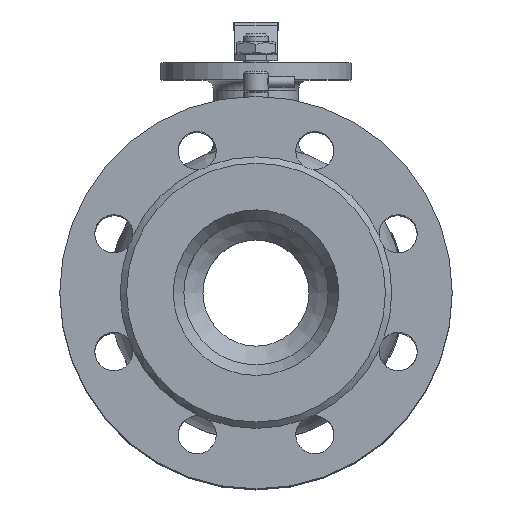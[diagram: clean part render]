
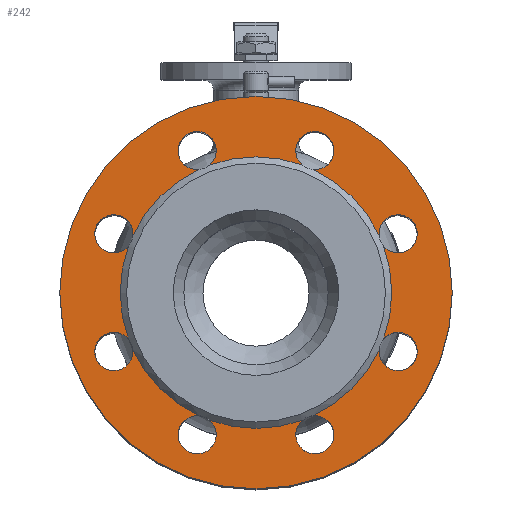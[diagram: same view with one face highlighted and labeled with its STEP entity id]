
A CAD part, top view. The second image highlights one B-rep face of the part: STEP entity #242.
In plain terms, the highlighted planar face has unit normal (0, 0, 1).
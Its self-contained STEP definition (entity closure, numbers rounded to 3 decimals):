
#242=ADVANCED_FACE('',(#2272,#2274),#2276,.F.);
#2272=FACE_BOUND('',#2273,.T.);
#2273=EDGE_LOOP('',(#27874));
#2274=FACE_BOUND('',#2275,.T.);
#2275=EDGE_LOOP('',(#27875,#27876,#27877,#27878,#27879,#27880,#27881,#27882,#27883,
#27884,#27885,#27886,#27887,#27888,#27889,#27890));
#2276=PLANE('',#2277);
#2277=AXIS2_PLACEMENT_3D('',#2278,#2279,#2280);
#2278=CARTESIAN_POINT('',(0.,64.,152.));
#2279=DIRECTION('',(0.,0.,-1.));
#2280=DIRECTION('',(-1.,0.,0.));
#27874=ORIENTED_EDGE('',*,*,#32870,.T.);
#27875=ORIENTED_EDGE('',*,*,#32871,.F.);
#27876=ORIENTED_EDGE('',*,*,#32801,.F.);
#27877=ORIENTED_EDGE('',*,*,#32872,.F.);
#27878=ORIENTED_EDGE('',*,*,#32799,.F.);
#27879=ORIENTED_EDGE('',*,*,#32873,.F.);
#27880=ORIENTED_EDGE('',*,*,#32797,.F.);
#27881=ORIENTED_EDGE('',*,*,#32874,.F.);
#27882=ORIENTED_EDGE('',*,*,#32795,.F.);
#27883=ORIENTED_EDGE('',*,*,#32875,.F.);
#27884=ORIENTED_EDGE('',*,*,#32793,.F.);
#27885=ORIENTED_EDGE('',*,*,#32876,.F.);
#27886=ORIENTED_EDGE('',*,*,#32791,.F.);
#27887=ORIENTED_EDGE('',*,*,#32877,.F.);
#27888=ORIENTED_EDGE('',*,*,#32789,.F.);
#27889=ORIENTED_EDGE('',*,*,#32878,.F.);
#27890=ORIENTED_EDGE('',*,*,#32787,.F.);
#32787=EDGE_CURVE('',#35074,#35077,#35078,.T.);
#32789=EDGE_CURVE('',#35079,#35081,#35082,.T.);
#32791=EDGE_CURVE('',#35083,#35085,#35086,.T.);
#32793=EDGE_CURVE('',#35087,#35089,#35090,.T.);
#32795=EDGE_CURVE('',#35091,#35093,#35094,.T.);
#32797=EDGE_CURVE('',#35095,#35098,#35099,.T.);
#32799=EDGE_CURVE('',#35100,#35102,#35103,.T.);
#32801=EDGE_CURVE('',#35104,#35075,#35107,.T.);
#32870=EDGE_CURVE('',#35238,#35238,#35239,.T.);
#32871=EDGE_CURVE('',#35075,#35074,#35240,.T.);
#32872=EDGE_CURVE('',#35102,#35104,#35241,.T.);
#32873=EDGE_CURVE('',#35098,#35100,#35242,.T.);
#32874=EDGE_CURVE('',#35093,#35095,#35243,.T.);
#32875=EDGE_CURVE('',#35089,#35091,#35244,.T.);
#32876=EDGE_CURVE('',#35085,#35087,#35245,.T.);
#32877=EDGE_CURVE('',#35081,#35083,#35246,.T.);
#32878=EDGE_CURVE('',#35077,#35079,#35247,.T.);
#35074=VERTEX_POINT('',#51800);
#35075=VERTEX_POINT('',#51801);
#35077=VERTEX_POINT('',#51860);
#35078=CIRCLE('',#51861,64.);
#35079=VERTEX_POINT('',#51865);
#35081=VERTEX_POINT('',#51925);
#35082=CIRCLE('',#51926,64.);
#35083=VERTEX_POINT('',#51930);
#35085=VERTEX_POINT('',#51989);
#35086=CIRCLE('',#51990,64.);
#35087=VERTEX_POINT('',#51994);
#35089=VERTEX_POINT('',#52054);
#35090=CIRCLE('',#52055,64.);
#35091=VERTEX_POINT('',#52059);
#35093=VERTEX_POINT('',#52118);
#35094=CIRCLE('',#52119,64.);
#35095=VERTEX_POINT('',#52123);
#35098=VERTEX_POINT('',#52184);
#35099=CIRCLE('',#52185,64.);
#35100=VERTEX_POINT('',#52189);
#35102=VERTEX_POINT('',#52248);
#35103=CIRCLE('',#52249,64.);
#35104=VERTEX_POINT('',#52253);
#35107=CIRCLE('',#52314,64.);
#35238=VERTEX_POINT('',#53088);
#35239=CIRCLE('',#53089,92.5);
#35240=CIRCLE('',#53093,9.);
#35241=CIRCLE('',#53097,9.);
#35242=CIRCLE('',#53101,9.);
#35243=CIRCLE('',#53105,9.);
#35244=CIRCLE('',#53109,9.);
#35245=CIRCLE('',#53113,9.);
#35246=CIRCLE('',#53117,9.);
#35247=CIRCLE('',#53121,9.);
#51800=CARTESIAN_POINT('',(58.009,27.036,152.));
#51801=CARTESIAN_POINT('',(60.136,21.902,152.));
#51860=CARTESIAN_POINT('',(27.036,58.009,152.));
#51861=AXIS2_PLACEMENT_3D('',#51862,#51863,#51864);
#51862=CARTESIAN_POINT('',(0.,0.,152.));
#51863=DIRECTION('',(0.,0.,1.));
#51864=DIRECTION('',(0.906,0.422,0.));
#51865=CARTESIAN_POINT('',(21.902,60.136,152.));
#51925=CARTESIAN_POINT('',(-21.902,60.136,152.));
#51926=AXIS2_PLACEMENT_3D('',#51927,#51928,#51929);
#51927=CARTESIAN_POINT('',(0.,0.,152.));
#51928=DIRECTION('',(0.,0.,1.));
#51929=DIRECTION('',(0.342,0.94,0.));
#51930=CARTESIAN_POINT('',(-27.036,58.009,152.));
#51989=CARTESIAN_POINT('',(-58.009,27.036,152.));
#51990=AXIS2_PLACEMENT_3D('',#51991,#51992,#51993);
#51991=CARTESIAN_POINT('',(0.,0.,152.));
#51992=DIRECTION('',(0.,0.,1.));
#51993=DIRECTION('',(-0.422,0.906,0.));
#51994=CARTESIAN_POINT('',(-60.136,21.902,152.));
#52054=CARTESIAN_POINT('',(-60.136,-21.902,152.));
#52055=AXIS2_PLACEMENT_3D('',#52056,#52057,#52058);
#52056=CARTESIAN_POINT('',(0.,0.,152.));
#52057=DIRECTION('',(0.,0.,1.));
#52058=DIRECTION('',(-0.94,0.342,0.));
#52059=CARTESIAN_POINT('',(-58.009,-27.036,152.));
#52118=CARTESIAN_POINT('',(-27.036,-58.009,152.));
#52119=AXIS2_PLACEMENT_3D('',#52120,#52121,#52122);
#52120=CARTESIAN_POINT('',(0.,0.,152.));
#52121=DIRECTION('',(0.,0.,1.));
#52122=DIRECTION('',(-0.906,-0.422,0.));
#52123=CARTESIAN_POINT('',(-21.902,-60.136,152.));
#52184=CARTESIAN_POINT('',(21.902,-60.136,152.));
#52185=AXIS2_PLACEMENT_3D('',#52186,#52187,#52188);
#52186=CARTESIAN_POINT('',(0.,0.,152.));
#52187=DIRECTION('',(0.,0.,1.));
#52188=DIRECTION('',(-0.342,-0.94,0.));
#52189=CARTESIAN_POINT('',(27.036,-58.009,152.));
#52248=CARTESIAN_POINT('',(58.009,-27.036,152.));
#52249=AXIS2_PLACEMENT_3D('',#52250,#52251,#52252);
#52250=CARTESIAN_POINT('',(0.,0.,152.));
#52251=DIRECTION('',(0.,0.,1.));
#52252=DIRECTION('',(0.422,-0.906,0.));
#52253=CARTESIAN_POINT('',(60.136,-21.902,152.));
#52314=AXIS2_PLACEMENT_3D('',#52315,#52316,#52317);
#52315=CARTESIAN_POINT('',(0.,0.,152.));
#52316=DIRECTION('',(0.,0.,1.));
#52317=DIRECTION('',(0.94,-0.342,0.));
#53088=CARTESIAN_POINT('',(92.5,0.,152.));
#53089=AXIS2_PLACEMENT_3D('',#53090,#53091,#53092);
#53090=CARTESIAN_POINT('',(0.,0.,152.));
#53091=DIRECTION('',(0.,0.,1.));
#53092=DIRECTION('',(1.,0.,0.));
#53093=AXIS2_PLACEMENT_3D('',#53094,#53095,#53096);
#53094=CARTESIAN_POINT('',(66.981,27.745,152.));
#53095=DIRECTION('',(0.,0.,1.));
#53096=DIRECTION('',(-0.761,-0.649,0.));
#53097=AXIS2_PLACEMENT_3D('',#53098,#53099,#53100);
#53098=CARTESIAN_POINT('',(66.981,-27.745,152.));
#53099=DIRECTION('',(0.,0.,1.));
#53100=DIRECTION('',(-0.997,0.079,0.));
#53101=AXIS2_PLACEMENT_3D('',#53102,#53103,#53104);
#53102=CARTESIAN_POINT('',(27.745,-66.981,152.));
#53103=DIRECTION('',(0.,0.,1.));
#53104=DIRECTION('',(-0.649,0.761,0.));
#53105=AXIS2_PLACEMENT_3D('',#53106,#53107,#53108);
#53106=CARTESIAN_POINT('',(-27.745,-66.981,152.));
#53107=DIRECTION('',(0.,0.,1.));
#53108=DIRECTION('',(0.079,0.997,0.));
#53109=AXIS2_PLACEMENT_3D('',#53110,#53111,#53112);
#53110=CARTESIAN_POINT('',(-66.981,-27.745,152.));
#53111=DIRECTION('',(0.,0.,1.));
#53112=DIRECTION('',(0.761,0.649,0.));
#53113=AXIS2_PLACEMENT_3D('',#53114,#53115,#53116);
#53114=CARTESIAN_POINT('',(-66.981,27.745,152.));
#53115=DIRECTION('',(0.,0.,1.));
#53116=DIRECTION('',(0.997,-0.079,0.));
#53117=AXIS2_PLACEMENT_3D('',#53118,#53119,#53120);
#53118=CARTESIAN_POINT('',(-27.745,66.981,152.));
#53119=DIRECTION('',(0.,0.,1.));
#53120=DIRECTION('',(0.649,-0.761,0.));
#53121=AXIS2_PLACEMENT_3D('',#53122,#53123,#53124);
#53122=CARTESIAN_POINT('',(27.745,66.981,152.));
#53123=DIRECTION('',(0.,0.,1.));
#53124=DIRECTION('',(-0.079,-0.997,0.));
